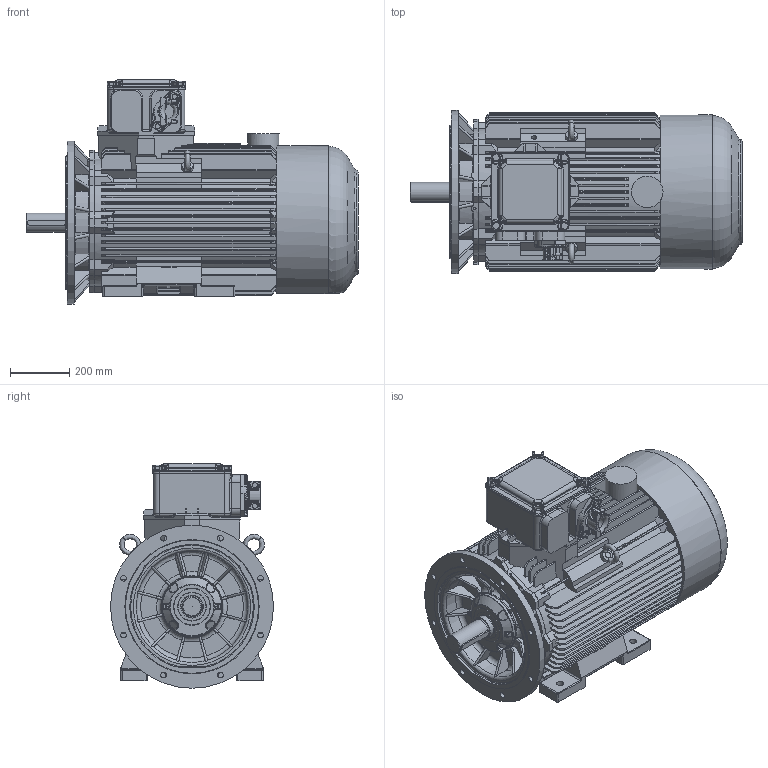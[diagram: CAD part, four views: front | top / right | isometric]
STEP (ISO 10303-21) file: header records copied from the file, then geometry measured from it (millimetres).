
FILE_DESCRIPTION(/* description */ ('Unknown'),/* implementation_level */ '2;1');
FILE_NAME(/* name */ 'EcSTLe250M4-8 IE2-3',/* time_stamp */ '2021-12-13T10:43:44+01:00',/* author */ ('Unknown'),/* organization */ ('Unknown'),/* preprocessor_version */ 'ST-DEVELOPER v16.7',/* originating_system */ 'DEX',/* authorisation */ $);
FILE_SCHEMA (('AUTOMOTIVE_DESIGN {1 0 10303 214 3 1 1}'));
Products named in the file (1): EcSTLe250M4-8 IE2-3
Bounding box: 1120 x 550 x 757 mm (x, y, z)
Volume: 187834131.6 mm3; surface area: 5725026.3 mm2
Topology: 2 solids, 19 shells, 2389 faces, 6338 edges, 3892 vertices
Faces by surface type: plane 898, cylinder 791, torus 272, bspline 204, cone 145, sphere 79
Full cylindrical faces by diameter (mm): 6.647 x2, 8.16 x2, 8.5 x4, 8.917 x1, 10 x6, 10.2 x4, 11 x4, 14.63 x3, 16.4 x2, 17.294 x5, 18.376 x1, 19 x8, 24 x4, 37.792 x1, 38.593 x1, 39.3 x1, 39.725 x1, 52 x1, 65 x1, 71.5 x1, 72 x1, 106 x1, 124.4 x1, 124.996 x1, 202 x1, 207.997 x1, 450 x1, 550 x1
Entity records: 96899 total; most frequent: CARTESIAN_POINT 23501, ORIENTED_EDGE 12094, DIRECTION 11610, EDGE_CURVE 6047, AXIS2_PLACEMENT_3D 4334, VERTEX_POINT 3816, LINE 2942, VECTOR 2942
